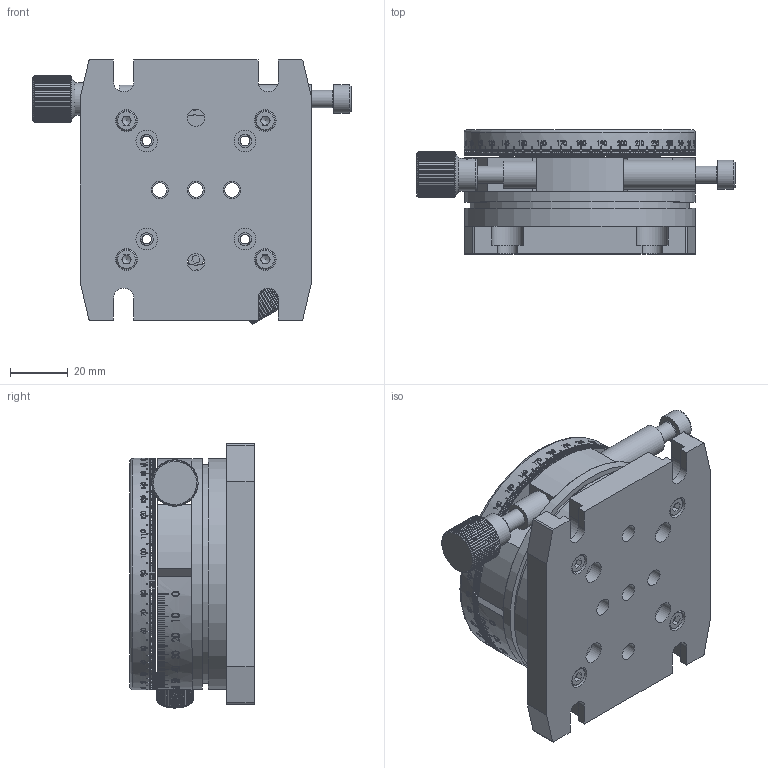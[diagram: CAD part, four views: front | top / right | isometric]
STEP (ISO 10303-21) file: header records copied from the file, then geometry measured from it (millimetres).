
FILE_DESCRIPTION (( 'STEP AP203' ), '1' );
FILE_NAME ('PRS-80A.step', '2017-01-10T09:25:55', ( '¦K¬P' ), ( '' ), 'SwSTEP 2.0', 'SolidWorks 2012', '' );
FILE_SCHEMA (( 'CONFIG_CONTROL_DESIGN' ));
Products named in the file (1): PRS-80A
Bounding box: 110.05 x 43 x 91.36 mm (x, y, z)
Surface area: 51895.7 mm2 (no closed solid volume)
Topology: 0 solids, 82 shells, 2016 faces, 8798 edges, 6296 vertices
Faces by surface type: plane 1102, cylinder 460, bspline 434, cone 16, torus 4
Full cylindrical faces by diameter (mm): 3 x1, 3.3 x8, 5 x11, 6 x11, 6.5 x1, 6.8 x1, 7 x1, 7.5 x8, 9.5 x1, 10 x2, 11.3 x1, 76 x1, 80 x3
Entity records: 152647 total; most frequent: CARTESIAN_POINT 87944, ORIENTED_EDGE 12648, DIRECTION 11807, EDGE_CURVE 8708, VERTEX_POINT 6276, AXIS2_PLACEMENT_3D 4083, VECTOR 3641, LINE 3641
